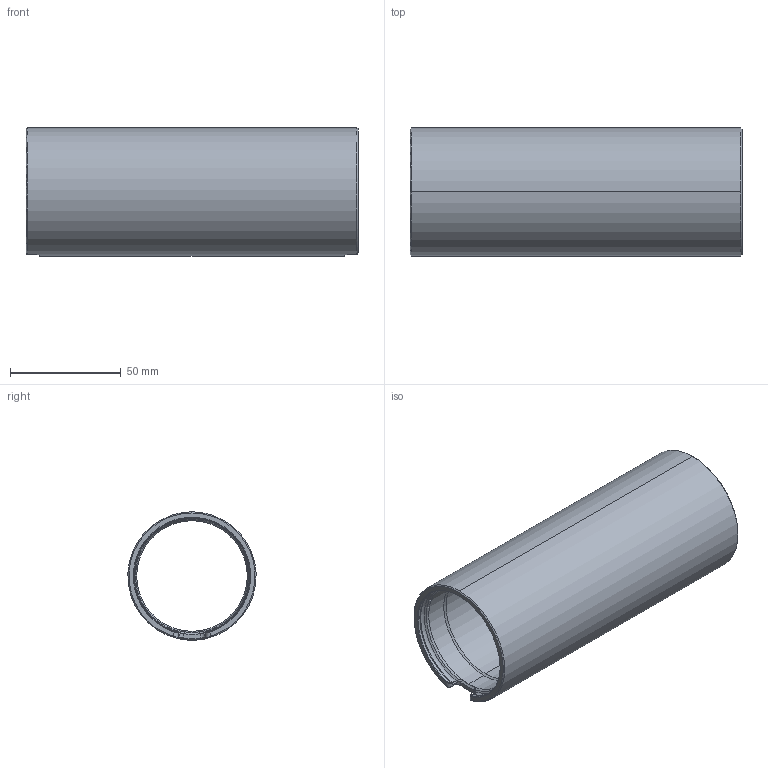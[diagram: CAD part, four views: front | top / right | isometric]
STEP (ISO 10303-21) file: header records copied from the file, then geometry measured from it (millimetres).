
FILE_DESCRIPTION (( 'STEP AP203' ), '1' );
FILE_NAME ('BR-106277-150_RevA.step', '2026-01-13T23:19:31', ( '' ), ( '' ), 'SwSTEP 2.0', 'SolidWorks 2024', '' );
FILE_SCHEMA (( 'CONFIG_CONTROL_DESIGN' ));
Length unit declared in the file: millimetre
Products named in the file (1): BR-106277-150
Bounding box: 150 x 57.96 x 58 mm (x, y, z)
Volume: 96540 mm3; surface area: 51927.1 mm2
Topology: 1 solids, 1 shells, 92 faces, 234 edges, 142 vertices
Faces by surface type: bspline 32, cylinder 20, cone 16, torus 12, plane 12
Entity records: 6544 total; most frequent: CARTESIAN_POINT 4576, ORIENTED_EDGE 468, DIRECTION 286, EDGE_CURVE 234, VERTEX_POINT 142, B_SPLINE_CURVE_WITH_KNOTS 128, AXIS2_PLACEMENT_3D 123, ADVANCED_FACE 92
